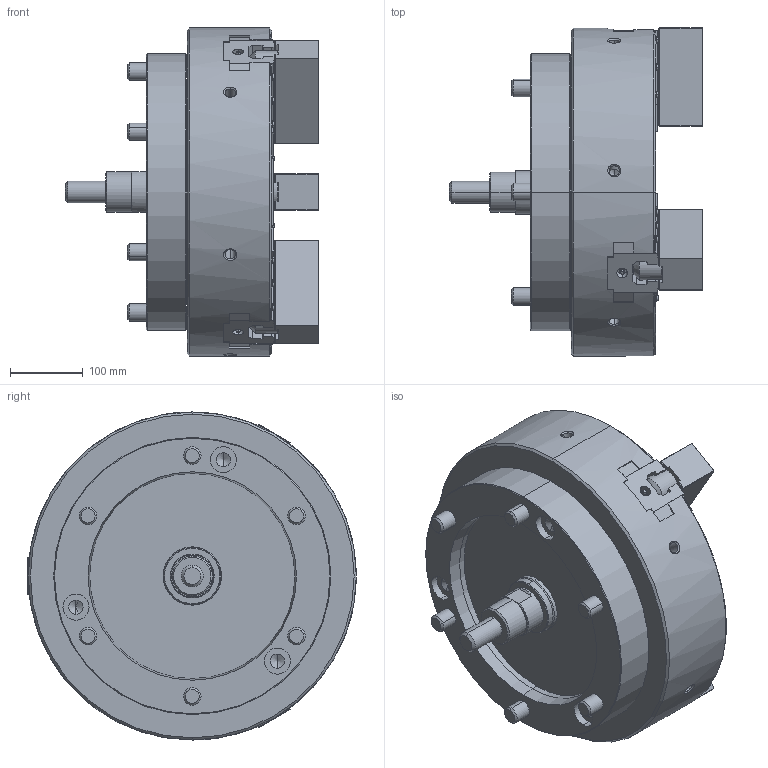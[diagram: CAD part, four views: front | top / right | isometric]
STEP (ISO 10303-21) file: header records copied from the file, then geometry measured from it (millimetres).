
FILE_DESCRIPTION (( 'STEP AP214' ), '1' );
FILE_NAME ('NV18C15_UC.STEP', '2019-12-19T07:17:11', ( '' ), ( '' ), 'SwSTEP 2.0', 'SolidWorks 2017', '' );
FILE_SCHEMA (( 'AUTOMOTIVE_DESIGN' ));
Length unit declared in the file: millimetre
Products named in the file (5): NV18C15_UC; 結合; 0030120055; 61P418536_俿僫僢僩; 61P321128
Assembly tree (16 placements, depth 2):
  NV18C15_UC
    61P321128  x3
    61P418536_俿僫僢僩  x6
    0030120055  x6
    結合
Bounding box: 347.2 x 450.75 x 450 mm (x, y, z)
Volume: 24308940.7 mm3; surface area: 1009769.3 mm2
Topology: 16 solids, 16 shells, 4550 faces, 12622 edges, 8143 vertices
Faces by surface type: plane 3808, cylinder 342, cone 316, torus 84
Entity records: 100676 total; most frequent: CARTESIAN_POINT 20078, ORIENTED_EDGE 17252, DIRECTION 15724, EDGE_CURVE 8626, VECTOR 7272, LINE 7272, VERTEX_POINT 5576, AXIS2_PLACEMENT_3D 4226
